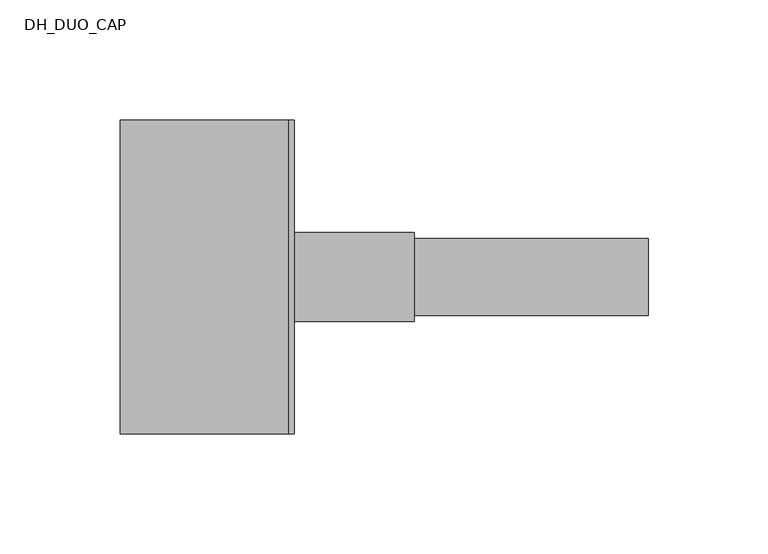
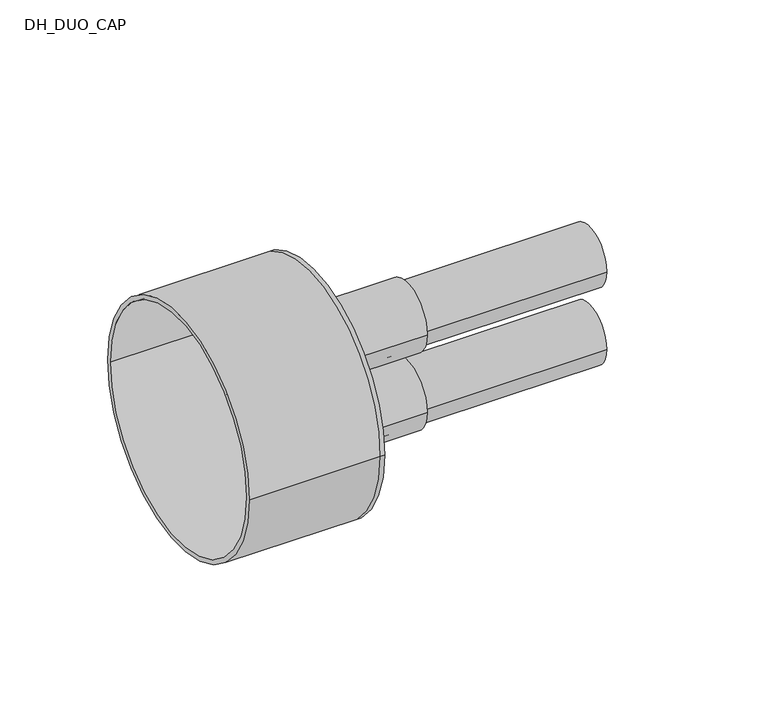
"""IFC4 building model written with IfcOpenShell, lengths in millimetres: pipe fitting geometry, DH_DUO_CAP : RAUTHERMEX DUO + 7.4 Heating - Rubber Cap."""

from ifc_helpers import new_model, si_unit, point, frame, frame_2d, origin, place, context, project, spatial, polyline, circle_curve, trimmed, segment, composite_curve, outline, extrude, source, transform, mapped, element, save
from ifc_brep_helpers import plane_surface, cylinder_surface, revolved_surface, advanced_brep


def dh_duo_cap_03c105d8(model_context):
    return source(origin(), model_context, "Body", "SolidModel", [
        extrude(outline(composite_curve([segment(trimmed(circle_curve(frame_2d((0.0, -22.0)), 16.0), [point((-16.0, -22.0))], [point((16.0, -22.0))], False, "CARTESIAN"), True, "CONTINUOUS"), segment(trimmed(circle_curve(frame_2d((0.0, -22.0)), 16.0), [point((16.0, -22.0))], [point((-16.0, -22.0))], False, "CARTESIAN"), True, "CONTINUOUS")], self_intersect=False), holes=[composite_curve([segment(trimmed(circle_curve(frame_2d((0.0, -22.0)), 11.6), [point((-11.6, -22.0))], [point((11.6, -22.0))], True, "CARTESIAN"), True, "CONTINUOUS"), segment(trimmed(circle_curve(frame_2d((0.0, -22.0)), 11.6), [point((11.6, -22.0))], [point((-11.6, -22.0))], True, "CARTESIAN"), True, "CONTINUOUS")], self_intersect=False)]), frame((0.0, 0.0, 0.0), z_axis=(1.0, 0.0, 0.0), x_axis=(0.0, 1.0, 0.0)), (0.0, 0.0, 1.0), 150.0),
        extrude(outline(composite_curve([segment(trimmed(circle_curve(frame_2d((0.0, 22.0)), 16.0), [point((-16.0, 22.0))], [point((16.0, 22.0))], False, "CARTESIAN"), True, "CONTINUOUS"), segment(trimmed(circle_curve(frame_2d((0.0, 22.0)), 16.0), [point((16.0, 22.0))], [point((-16.0, 22.0))], False, "CARTESIAN"), True, "CONTINUOUS")], self_intersect=False), holes=[composite_curve([segment(trimmed(circle_curve(frame_2d((0.0, 22.0)), 11.6), [point((-11.6, 22.0))], [point((11.6, 22.0))], True, "CARTESIAN"), True, "CONTINUOUS"), segment(trimmed(circle_curve(frame_2d((0.0, 22.0)), 11.6), [point((11.6, 22.0))], [point((-11.6, 22.0))], True, "CARTESIAN"), True, "CONTINUOUS")], self_intersect=False)]), frame((0.0, 0.0, 0.0), z_axis=(1.0, 0.0, 0.0), x_axis=(0.0, 1.0, 0.0)), (0.0, 0.0, 1.0), 150.0),
        advanced_brep(
        [(-70.0, -65.5, 0.0), (-70.0, 65.5, 0.0), (-70.0, -63.0, 0.0), (-70.0, 63.0, 0.0), (0.0, -63.0, 0.0), (0.0, 63.0, 0.0), (0.0, -65.5, 0.0), (0.0, 65.5, 0.0), (0.0, 16.0, 22.0), (0.0, -16.0, 22.0), (0.0, 16.0, -22.0), (0.0, -16.0, -22.0), (2.5, -65.5, 0.0), (2.5, 65.5, 0.0), (2.5, -16.0, 22.0), (2.5, 16.0, 22.0), (2.5, -16.0, -22.0), (2.5, 16.0, -22.0)],
        [
            (0, 1, circle_curve(frame((-70.0, 0.0, 0.0), z_axis=(-1.0, 0.0, 0.0), x_axis=(0.0, 1.0, 0.0)), 65.5)),
            (1, 0, circle_curve(frame((-70.0, 0.0, 0.0), z_axis=(-1.0, 0.0, 0.0), x_axis=(0.0, 1.0, 0.0)), 65.5)),
            (2, 3, circle_curve(frame((-70.0, 0.0, 0.0), z_axis=(1.0, 0.0, 0.0), x_axis=(0.0, 1.0, 0.0)), 63.0)),
            (3, 2, circle_curve(frame((-70.0, 0.0, 0.0), z_axis=(1.0, 0.0, 0.0), x_axis=(0.0, 1.0, 0.0)), 63.0)),
            (2, 4),
            (4, 5, circle_curve(frame((0.0, 0.0, 0.0), z_axis=(1.0, 0.0, 0.0), x_axis=(0.0, 1.0, 0.0)), 63.0)),
            (5, 3),
            (5, 4, circle_curve(frame((0.0, 0.0, 0.0), z_axis=(1.0, 0.0, 0.0), x_axis=(0.0, 1.0, 0.0)), 63.0)),
            (0, 6),
            (6, 7, circle_curve(frame((0.0, 0.0, 0.0), z_axis=(-1.0, 0.0, 0.0), x_axis=(0.0, 1.0, 0.0)), 65.5)),
            (7, 1),
            (7, 6, circle_curve(frame((0.0, 0.0, 0.0), z_axis=(-1.0, 0.0, 0.0), x_axis=(0.0, 1.0, 0.0)), 65.5)),
            (8, 9, circle_curve(frame((0.0, 0.0, 22.0), z_axis=(1.0, 0.0, 0.0), x_axis=(0.0, 1.0, 0.0)), 16.0)),
            (9, 8, circle_curve(frame((0.0, 0.0, 22.0), z_axis=(1.0, 0.0, 0.0), x_axis=(0.0, 1.0, 0.0)), 16.0)),
            (10, 11, circle_curve(frame((0.0, 0.0, -22.0), z_axis=(1.0, 0.0, 0.0), x_axis=(0.0, 1.0, 0.0)), 16.0)),
            (11, 10, circle_curve(frame((0.0, 0.0, -22.0), z_axis=(1.0, 0.0, 0.0), x_axis=(0.0, 1.0, 0.0)), 16.0)),
            (12, 13, circle_curve(frame((2.5, 0.0, 0.0), z_axis=(1.0, 0.0, 0.0), x_axis=(0.0, 1.0, 0.0)), 65.5)),
            (13, 12, circle_curve(frame((2.5, 0.0, 0.0), z_axis=(1.0, 0.0, 0.0), x_axis=(0.0, 1.0, 0.0)), 65.5)),
            (14, 15, circle_curve(frame((2.5, 0.0, 22.0), z_axis=(-1.0, 0.0, 0.0), x_axis=(0.0, 1.0, 0.0)), 16.0)),
            (15, 14, circle_curve(frame((2.5, 0.0, 22.0), z_axis=(-1.0, 0.0, 0.0), x_axis=(0.0, 1.0, 0.0)), 16.0)),
            (16, 17, circle_curve(frame((2.5, 0.0, -22.0), z_axis=(-1.0, 0.0, 0.0), x_axis=(0.0, 1.0, 0.0)), 16.0)),
            (17, 16, circle_curve(frame((2.5, 0.0, -22.0), z_axis=(-1.0, 0.0, 0.0), x_axis=(0.0, 1.0, 0.0)), 16.0)),
            (13, 7),
            (6, 12),
            (8, 15),
            (14, 9),
            (10, 17),
            (16, 11),
        ],
        [
            plane_surface(frame((-70.0, 0.0, 0.0), z_axis=(-1.0, 0.0, 0.0), x_axis=(0.0, 0.0, 1.0))),
            revolved_surface(polyline([(0.0, 63.0, 0.0), (-70.0, 63.0, 0.0)]), (-70.0, 0.0, 0.0), (1.0, 0.0, 0.0)),
            cylinder_surface(frame((-70.0, 0.0, 0.0), z_axis=(-1.0, 0.0, 0.0), x_axis=(0.0, 1.0, 0.0)), 65.5),
            plane_surface(frame((0.0, 0.0, 0.0), z_axis=(-1.0, 0.0, 0.0), x_axis=(0.0, 0.0, 1.0))),
            plane_surface(frame((2.5, 0.0, 0.0), z_axis=(1.0, 0.0, 0.0), x_axis=(0.0, 0.0, 1.0))),
            cylinder_surface(frame((0.0, 0.0, 0.0), z_axis=(-1.0, 0.0, 0.0), x_axis=(0.0, 1.0, 0.0)), 65.5),
            revolved_surface(polyline([(0.0, 16.0, 22.0), (2.5, 16.0, 22.0)]), (0.0, 0.0, 22.0), (-1.0, 0.0, 0.0)),
            revolved_surface(polyline([(0.0, 16.0, -22.0), (2.5, 16.0, -22.0)]), (0.0, 0.0, -22.0), (-1.0, 0.0, 0.0)),
        ],
        [
            (0, [[1, 2], [3, 4]]),
            (1, [[-3, 5, 6, 7]]),
            (1, [[-4, -7, 8, -5]]),
            (2, [[-1, 9, 10, 11]]),
            (2, [[-2, -11, 12, -9]]),
            (3, [[-6, -8], [13, 14], [15, 16]]),
            (4, [[17, 18], [19, 20], [21, 22]]),
            (5, [[-18, 23, -10, 24]]),
            (5, [[-17, -24, -12, -23]]),
            (6, [[25, -19, 26, -13]]),
            (6, [[-25, -14, -26, -20]]),
            (7, [[27, -21, 28, -15]]),
            (7, [[-27, -16, -28, -22]]),
        ],
    ),
        extrude(outline(composite_curve([segment(trimmed(circle_curve(frame_2d((0.0, -22.0)), 18.5), [point((-18.5, -22.0))], [point((18.5, -22.0))], False, "CARTESIAN"), True, "CONTINUOUS"), segment(trimmed(circle_curve(frame_2d((0.0, -22.0)), 18.5), [point((18.5, -22.0))], [point((-18.5, -22.0))], False, "CARTESIAN"), True, "CONTINUOUS")], self_intersect=False), holes=[composite_curve([segment(trimmed(circle_curve(frame_2d((0.0, -22.0)), 16.0), [point((-16.0, -22.0))], [point((16.0, -22.0))], True, "CARTESIAN"), True, "CONTINUOUS"), segment(trimmed(circle_curve(frame_2d((0.0, -22.0)), 16.0), [point((16.0, -22.0))], [point((-16.0, -22.0))], True, "CARTESIAN"), True, "CONTINUOUS")], self_intersect=False)]), frame((2.5, 0.0, 0.0), z_axis=(1.0, 0.0, 0.0), x_axis=(0.0, 1.0, 0.0)), (0.0, 0.0, 1.0), 50.0),
        extrude(outline(composite_curve([segment(trimmed(circle_curve(frame_2d((0.0, 22.0)), 18.5), [point((-18.5, 22.0))], [point((18.5, 22.0))], False, "CARTESIAN"), True, "CONTINUOUS"), segment(trimmed(circle_curve(frame_2d((0.0, 22.0)), 18.5), [point((18.5, 22.0))], [point((-18.5, 22.0))], False, "CARTESIAN"), True, "CONTINUOUS")], self_intersect=False), holes=[composite_curve([segment(trimmed(circle_curve(frame_2d((0.0, 22.0)), 16.0), [point((-16.0, 22.0))], [point((16.0, 22.0))], True, "CARTESIAN"), True, "CONTINUOUS"), segment(trimmed(circle_curve(frame_2d((0.0, 22.0)), 16.0), [point((16.0, 22.0))], [point((-16.0, 22.0))], True, "CARTESIAN"), True, "CONTINUOUS")], self_intersect=False)]), frame((2.5, 0.0, 0.0), z_axis=(1.0, 0.0, 0.0), x_axis=(0.0, 1.0, 0.0)), (0.0, 0.0, 1.0), 50.0),
    ])


if __name__ == "__main__":
    model = new_model("IFC4")
    model_context = context("Model", 3, world=origin())
    ifc_project = project(units=[si_unit("LENGTHUNIT", "METRE", prefix="MILLI")], contexts=[model_context])
    site = spatial("IfcSite", under=ifc_project)
    building = spatial("IfcBuilding", under=site)
    placement = place(None, origin())
    dh_duo_cap_shape = dh_duo_cap_03c105d8(model_context)
    element("IfcPipeFitting", 1, ObjectType="DH_DUO_CAP : RAUTHERMEX DUO + 7.4 Heating - Rubber Cap", at=placement, inside=building, context=model_context, shape_type="MappedRepresentation", body=[
        mapped(dh_duo_cap_shape, transform((0.0, 0.0, 0.0), x_axis=(1.0, 0.0, 0.0), y_axis=(0.0, 1.0, 0.0), z_axis=(0.0, 0.0, 1.0))),
    ])
    save(model, "model.ifc")
